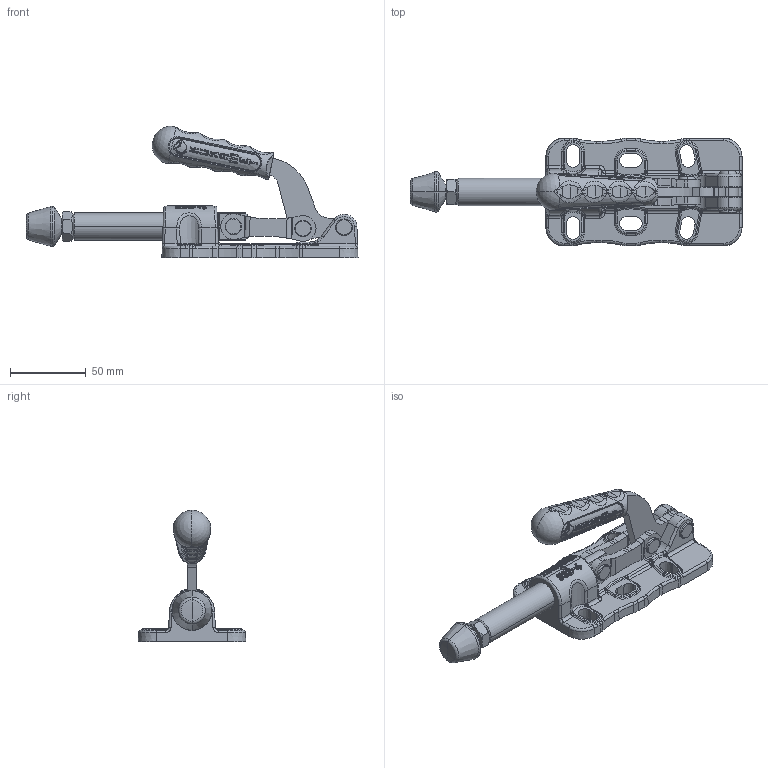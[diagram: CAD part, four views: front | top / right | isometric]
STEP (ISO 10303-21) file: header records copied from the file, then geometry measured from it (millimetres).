
FILE_DESCRIPTION(('STEP AP203'),'1');
FILE_NAME('532-4-q18.stp','2023-09-15T12:45:52',('TraceParts'),('TraceParts S.A.'),'Spatial InterOp 3D',' ',' ');
FILE_SCHEMA(('CONFIG_CONTROL_DESIGN'));
Length unit declared in the file: millimetre
Products named in the file (1): 1
Bounding box: 218.97 x 71 x 86.7 mm (x, y, z)
Volume: 168330 mm3; surface area: 56751.4 mm2
Topology: 6 solids, 8 shells, 2828 faces, 7433 edges, 4431 vertices
Faces by surface type: bspline 952, cylinder 950, plane 594, torus 196, cone 126, sphere 10
Entity records: 117036 total; most frequent: CARTESIAN_POINT 55319, ORIENTED_EDGE 14626, DIRECTION 11010, EDGE_CURVE 7313, AXIS2_PLACEMENT_3D 4573, VERTEX_POINT 4431, EDGE_LOOP 2900, ADVANCED_FACE 2828
